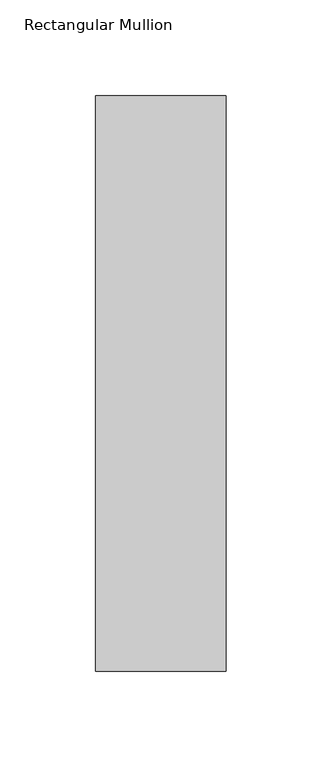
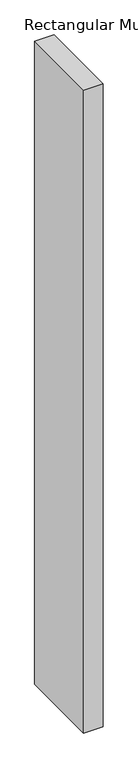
"""IFC4 building model written with IfcOpenShell, lengths in millimetres: member geometry, Rectangular Mullion : DucoSun Cubic Design louvre 300."""

from ifc_helpers import new_model, si_unit, frame, origin, place, context, project, spatial, polyline, outline, extrude, source, transform, mapped, element, save


def rectangular_mullion_05fc8a73(model_context):
    return source(origin(), model_context, "Body", "SweptSolid", [
        extrude(outline(polyline([(-68.0, 300.0), (0.0, 300.0), (0.0, 0.0), (-68.0, 0.0), (-68.0, 300.0)])), frame((0.0, 0.0, -2400.0), z_axis=(0.0, 0.0, 1.0), x_axis=(1.0, 0.0, 0.0)), (0.0, 0.0, 1.0), 2400.0),
    ])


if __name__ == "__main__":
    model = new_model("IFC4")
    model_context = context("Model", 3, world=origin())
    ifc_project = project(units=[si_unit("LENGTHUNIT", "METRE", prefix="MILLI")], contexts=[model_context])
    site = spatial("IfcSite", under=ifc_project)
    building = spatial("IfcBuilding", under=site)
    placement = place(None, origin())
    rectangular_mullion_shape = rectangular_mullion_05fc8a73(model_context)
    element("IfcMember", 1, ObjectType="Rectangular Mullion : DucoSun Cubic Design louvre 300", at=placement, inside=building, context=model_context, shape_type="MappedRepresentation", body=[
        mapped(rectangular_mullion_shape, transform((0.0, 0.0, 0.0), x_axis=(1.0, 0.0, 0.0), y_axis=(0.0, 1.0, 0.0), z_axis=(0.0, 0.0, 1.0))),
    ])
    save(model, "model.ifc")
